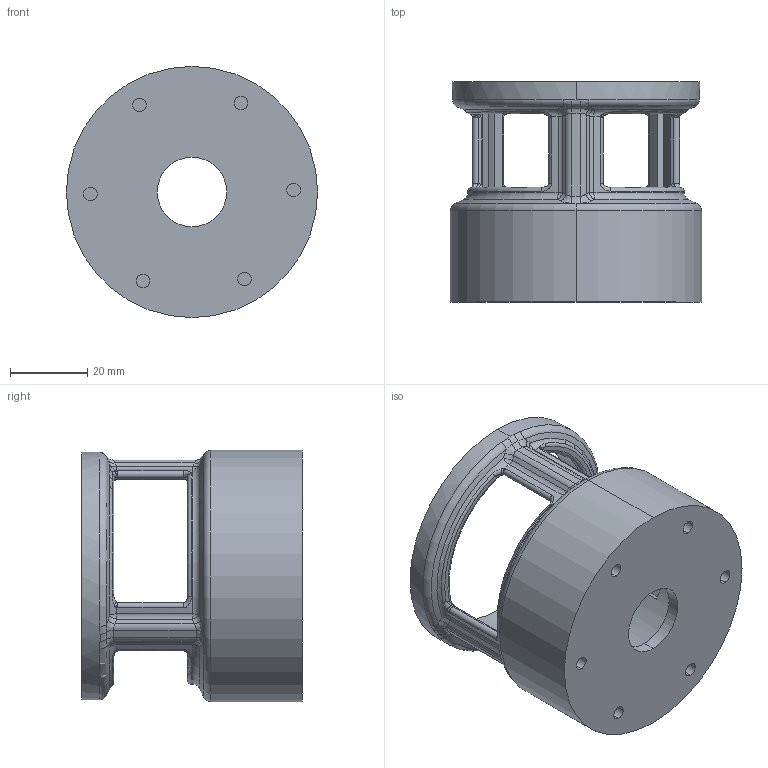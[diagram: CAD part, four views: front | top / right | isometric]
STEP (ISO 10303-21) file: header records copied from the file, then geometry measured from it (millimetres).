
FILE_DESCRIPTION (( 'STEP AP214' ), '1' );
FILE_NAME ('New Turbine 1 Case.STEP', '2021-11-11T22:21:56', ( 'Valera' ), ( '' ), 'SwSTEP 2.0', 'SolidWorks 2020', '' );
FILE_SCHEMA (( 'AUTOMOTIVE_DESIGN' ));
Length unit declared in the file: millimetre
Products named in the file (1): New Turbine 1 Case
Bounding box: 65 x 57 x 65 mm (x, y, z)
Volume: 56553.9 mm3; surface area: 23364.8 mm2
Topology: 1 solids, 1 shells, 263 faces, 602 edges, 353 vertices
Faces by surface type: cylinder 82, bspline 75, plane 51, torus 38, sphere 12, cone 5
Entity records: 9896 total; most frequent: CARTESIAN_POINT 4341, ORIENTED_EDGE 1204, DIRECTION 1112, EDGE_CURVE 602, AXIS2_PLACEMENT_3D 482, VERTEX_POINT 353, CIRCLE 293, EDGE_LOOP 283
